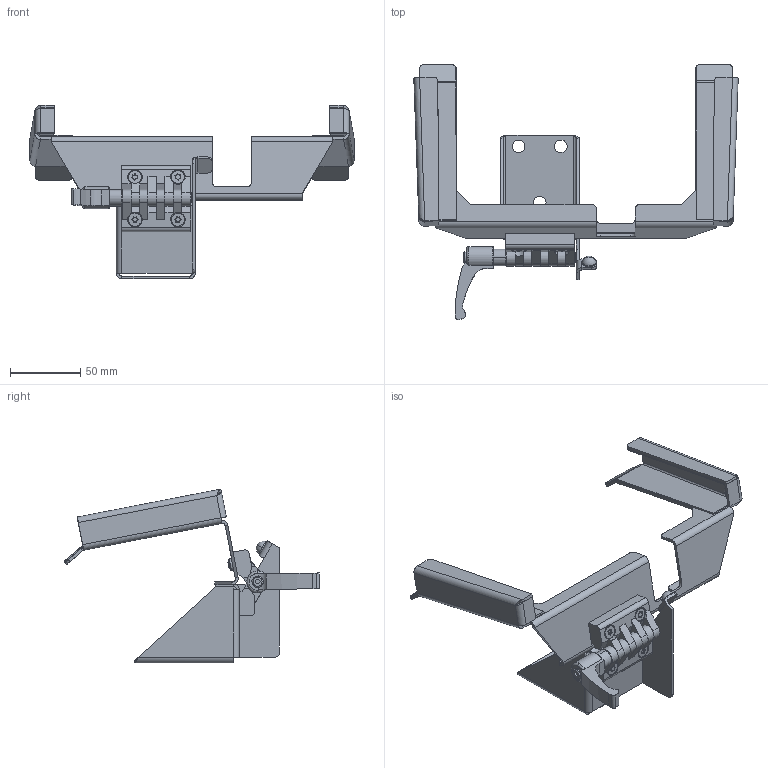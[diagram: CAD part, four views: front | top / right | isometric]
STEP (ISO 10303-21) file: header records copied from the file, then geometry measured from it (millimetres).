
FILE_DESCRIPTION (( 'STEP AP214' ), '1' );
FILE_NAME ('Wandhalterung für HBG 8Zoll Var.05.STEP', '2015-03-03T06:56:17', ( 'SIGMATEK GmbH & Co KG' ), ( 'SIGMATEK GmbH & Co KG' ), 'SwSTEP 2.0', 'SolidWorks 2013', '' );
FILE_SCHEMA (( 'AUTOMOTIVE_DESIGN' ));
Length unit declared in the file: millimetre
Products named in the file (1): Wandhalterung f黵 HBG 8Zoll Var.05
Bounding box: 229.97 x 181.21 x 123.28 mm (x, y, z)
Volume: 121965.2 mm3; surface area: 123585.4 mm2
Topology: 22 solids, 22 shells, 1143 faces, 2569 edges, 1491 vertices
Faces by surface type: cylinder 363, cone 330, plane 290, bspline 154, sphere 6
Entity records: 46997 total; most frequent: CARTESIAN_POINT 8626, DIRECTION 5720, ORIENTED_EDGE 5138, EDGE_CURVE 2569, AXIS2_PLACEMENT_3D 2259, VERTEX_POINT 1491, CIRCLE 1269, VECTOR 1202
